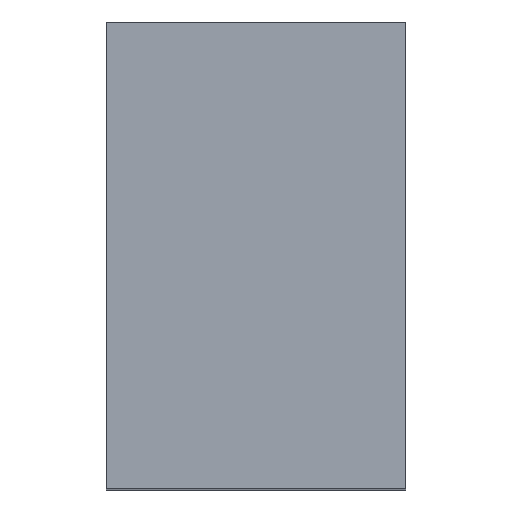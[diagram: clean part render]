
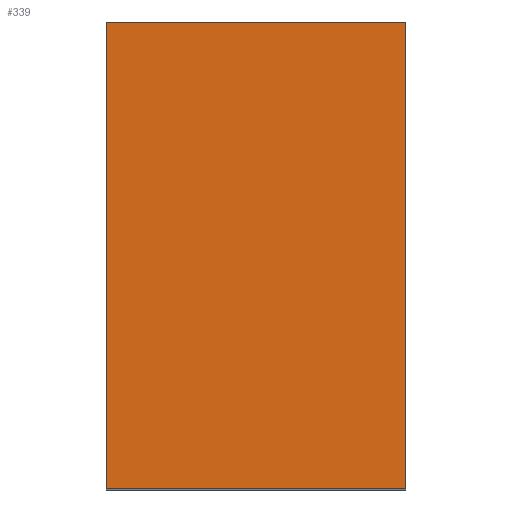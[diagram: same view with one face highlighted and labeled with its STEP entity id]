
A CAD part, top view. The second image highlights one B-rep face of the part: STEP entity #339.
In plain terms, the highlighted planar face has unit normal (0, 0, 1).
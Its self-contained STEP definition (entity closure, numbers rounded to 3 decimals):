
#21 = EDGE_CURVE('',#22,#24,#26,.T.);
#22 = VERTEX_POINT('',#23);
#23 = CARTESIAN_POINT('',(102.,-124.,-76.));
#24 = VERTEX_POINT('',#25);
#25 = CARTESIAN_POINT('',(102.,-46.,-76.));
#26 = SURFACE_CURVE('',#27,(#31,#43),.PCURVE_S1.);
#27 = LINE('',#28,#29);
#28 = CARTESIAN_POINT('',(102.,-124.,-76.));
#29 = VECTOR('',#30,1.);
#30 = DIRECTION('',(-0.,1.,0.));
#31 = PCURVE('',#32,#37);
#32 = PLANE('',#33);
#33 = AXIS2_PLACEMENT_3D('',#34,#35,#36);
#34 = CARTESIAN_POINT('',(102.,-124.,-218.));
#35 = DIRECTION('',(1.,0.,-0.));
#36 = DIRECTION('',(0.,0.,1.));
#37 = DEFINITIONAL_REPRESENTATION('',(#38),#42);
#38 = LINE('',#39,#40);
#39 = CARTESIAN_POINT('',(142.,0.));
#40 = VECTOR('',#41,1.);
#41 = DIRECTION('',(0.,-1.));
#42 = ( GEOMETRIC_REPRESENTATION_CONTEXT(2) 
PARAMETRIC_REPRESENTATION_CONTEXT() REPRESENTATION_CONTEXT('2D SPACE',''
  ) );
#43 = PCURVE('',#44,#49);
#44 = PLANE('',#45);
#45 = AXIS2_PLACEMENT_3D('',#46,#47,#48);
#46 = CARTESIAN_POINT('',(102.,-124.,-76.));
#47 = DIRECTION('',(0.,0.,1.));
#48 = DIRECTION('',(1.,0.,-0.));
#49 = DEFINITIONAL_REPRESENTATION('',(#50),#54);
#50 = LINE('',#51,#52);
#51 = CARTESIAN_POINT('',(0.,0.));
#52 = VECTOR('',#53,1.);
#53 = DIRECTION('',(0.,1.));
#54 = ( GEOMETRIC_REPRESENTATION_CONTEXT(2) 
PARAMETRIC_REPRESENTATION_CONTEXT() REPRESENTATION_CONTEXT('2D SPACE',''
  ) );
#72 = PLANE('',#73);
#73 = AXIS2_PLACEMENT_3D('',#74,#75,#76);
#74 = CARTESIAN_POINT('',(102.,-124.,-218.));
#75 = DIRECTION('',(-0.,1.,0.));
#76 = DIRECTION('',(0.,0.,1.));
#128 = PLANE('',#129);
#129 = AXIS2_PLACEMENT_3D('',#130,#131,#132);
#130 = CARTESIAN_POINT('',(102.,-46.,-218.));
#131 = DIRECTION('',(-0.,1.,0.));
#132 = DIRECTION('',(0.,0.,1.));
#339 = ADVANCED_FACE('',(#340),#44,.T.);
#340 = FACE_BOUND('',#341,.T.);
#341 = EDGE_LOOP('',(#342,#343,#366,#394));
#342 = ORIENTED_EDGE('',*,*,#21,.F.);
#343 = ORIENTED_EDGE('',*,*,#344,.T.);
#344 = EDGE_CURVE('',#22,#345,#347,.T.);
#345 = VERTEX_POINT('',#346);
#346 = CARTESIAN_POINT('',(152.,-124.,-76.));
#347 = SURFACE_CURVE('',#348,(#352,#359),.PCURVE_S1.);
#348 = LINE('',#349,#350);
#349 = CARTESIAN_POINT('',(102.,-124.,-76.));
#350 = VECTOR('',#351,1.);
#351 = DIRECTION('',(1.,0.,-0.));
#352 = PCURVE('',#44,#353);
#353 = DEFINITIONAL_REPRESENTATION('',(#354),#358);
#354 = LINE('',#355,#356);
#355 = CARTESIAN_POINT('',(0.,0.));
#356 = VECTOR('',#357,1.);
#357 = DIRECTION('',(1.,0.));
#358 = ( GEOMETRIC_REPRESENTATION_CONTEXT(2) 
PARAMETRIC_REPRESENTATION_CONTEXT() REPRESENTATION_CONTEXT('2D SPACE',''
  ) );
#359 = PCURVE('',#72,#360);
#360 = DEFINITIONAL_REPRESENTATION('',(#361),#365);
#361 = LINE('',#362,#363);
#362 = CARTESIAN_POINT('',(142.,0.));
#363 = VECTOR('',#364,1.);
#364 = DIRECTION('',(0.,1.));
#365 = ( GEOMETRIC_REPRESENTATION_CONTEXT(2) 
PARAMETRIC_REPRESENTATION_CONTEXT() REPRESENTATION_CONTEXT('2D SPACE',''
  ) );
#366 = ORIENTED_EDGE('',*,*,#367,.T.);
#367 = EDGE_CURVE('',#345,#368,#370,.T.);
#368 = VERTEX_POINT('',#369);
#369 = CARTESIAN_POINT('',(152.,-46.,-76.));
#370 = SURFACE_CURVE('',#371,(#375,#382),.PCURVE_S1.);
#371 = LINE('',#372,#373);
#372 = CARTESIAN_POINT('',(152.,-124.,-76.));
#373 = VECTOR('',#374,1.);
#374 = DIRECTION('',(-0.,1.,0.));
#375 = PCURVE('',#44,#376);
#376 = DEFINITIONAL_REPRESENTATION('',(#377),#381);
#377 = LINE('',#378,#379);
#378 = CARTESIAN_POINT('',(50.,0.));
#379 = VECTOR('',#380,1.);
#380 = DIRECTION('',(0.,1.));
#381 = ( GEOMETRIC_REPRESENTATION_CONTEXT(2) 
PARAMETRIC_REPRESENTATION_CONTEXT() REPRESENTATION_CONTEXT('2D SPACE',''
  ) );
#382 = PCURVE('',#383,#388);
#383 = PLANE('',#384);
#384 = AXIS2_PLACEMENT_3D('',#385,#386,#387);
#385 = CARTESIAN_POINT('',(152.,-124.,-218.));
#386 = DIRECTION('',(1.,0.,-0.));
#387 = DIRECTION('',(0.,0.,1.));
#388 = DEFINITIONAL_REPRESENTATION('',(#389),#393);
#389 = LINE('',#390,#391);
#390 = CARTESIAN_POINT('',(142.,0.));
#391 = VECTOR('',#392,1.);
#392 = DIRECTION('',(0.,-1.));
#393 = ( GEOMETRIC_REPRESENTATION_CONTEXT(2) 
PARAMETRIC_REPRESENTATION_CONTEXT() REPRESENTATION_CONTEXT('2D SPACE',''
  ) );
#394 = ORIENTED_EDGE('',*,*,#395,.F.);
#395 = EDGE_CURVE('',#24,#368,#396,.T.);
#396 = SURFACE_CURVE('',#397,(#401,#408),.PCURVE_S1.);
#397 = LINE('',#398,#399);
#398 = CARTESIAN_POINT('',(102.,-46.,-76.));
#399 = VECTOR('',#400,1.);
#400 = DIRECTION('',(1.,0.,-0.));
#401 = PCURVE('',#44,#402);
#402 = DEFINITIONAL_REPRESENTATION('',(#403),#407);
#403 = LINE('',#404,#405);
#404 = CARTESIAN_POINT('',(0.,78.));
#405 = VECTOR('',#406,1.);
#406 = DIRECTION('',(1.,0.));
#407 = ( GEOMETRIC_REPRESENTATION_CONTEXT(2) 
PARAMETRIC_REPRESENTATION_CONTEXT() REPRESENTATION_CONTEXT('2D SPACE',''
  ) );
#408 = PCURVE('',#128,#409);
#409 = DEFINITIONAL_REPRESENTATION('',(#410),#414);
#410 = LINE('',#411,#412);
#411 = CARTESIAN_POINT('',(142.,0.));
#412 = VECTOR('',#413,1.);
#413 = DIRECTION('',(0.,1.));
#414 = ( GEOMETRIC_REPRESENTATION_CONTEXT(2) 
PARAMETRIC_REPRESENTATION_CONTEXT() REPRESENTATION_CONTEXT('2D SPACE',''
  ) );
